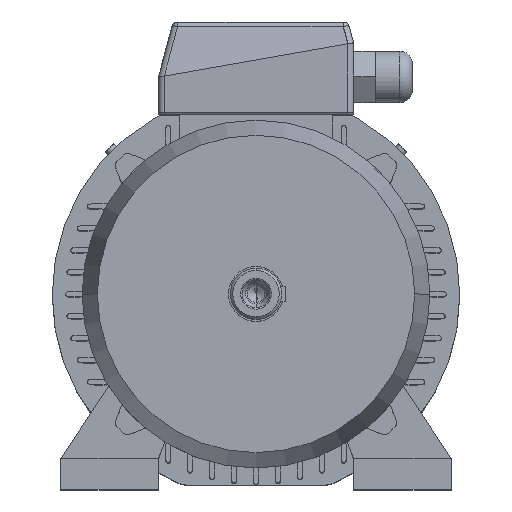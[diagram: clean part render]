
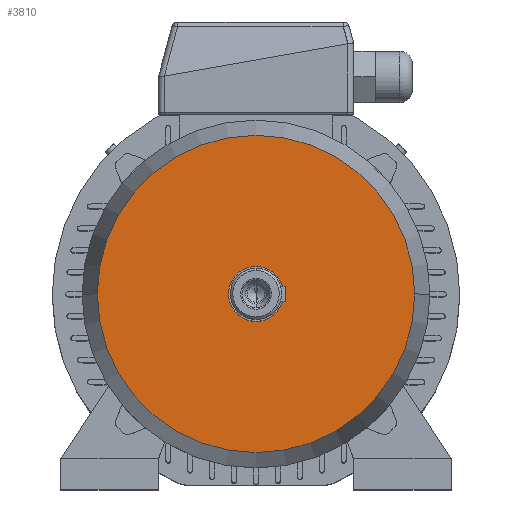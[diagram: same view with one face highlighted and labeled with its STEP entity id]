
A CAD part, top view. The second image highlights one B-rep face of the part: STEP entity #3810.
In plain terms, the highlighted planar face has unit normal (0, 0, 1).
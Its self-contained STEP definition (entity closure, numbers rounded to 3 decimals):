
#525 = ORIENTED_EDGE ( 'NONE', *, *, #4297, .F. ) ;
#847 = VERTEX_POINT ( 'NONE', #3585 ) ;
#906 = VERTEX_POINT ( 'NONE', #3713 ) ;
#959 = EDGE_CURVE ( 'NONE', #906, #847, #3814, .T. ) ;
#3585 = CARTESIAN_POINT ( 'NONE',  ( 130., 0., 59. ) ) ;
#3713 = CARTESIAN_POINT ( 'NONE',  ( -130., 0., 59. ) ) ;
#3810 = ADVANCED_FACE ( 'NONE', ( #6605 ), #6606, .T. ) ;
#3814 = CIRCLE ( 'NONE', #3815, 130. ) ;
#3815 = AXIS2_PLACEMENT_3D ( 'NONE', #3816, #3817, #3818 ) ;
#3816 = CARTESIAN_POINT ( 'NONE',  ( 0., 0., 59. ) ) ;
#3817 = DIRECTION ( 'NONE',  ( 0., 0., -1. ) ) ;
#3818 = DIRECTION ( 'NONE',  ( -1., 0., 0. ) ) ;
#4297 = EDGE_CURVE ( 'NONE', #847, #906, #6994, .T. ) ;
#6605 = FACE_OUTER_BOUND ( 'NONE', #12967, .T. ) ;
#6606 = PLANE ( 'NONE',  #6607 ) ;
#6607 = AXIS2_PLACEMENT_3D ( 'NONE', #6612, #6613, #6614 ) ;
#6612 = CARTESIAN_POINT ( 'NONE',  ( 0., 130., 59. ) ) ;
#6613 = DIRECTION ( 'NONE',  ( 0., 0., 1. ) ) ;
#6614 = DIRECTION ( 'NONE',  ( 1., 0., 0. ) ) ;
#6994 = CIRCLE ( 'NONE', #6995, 130. ) ;
#6995 = AXIS2_PLACEMENT_3D ( 'NONE', #6996, #6997, #6998 ) ;
#6996 = CARTESIAN_POINT ( 'NONE',  ( 0., 0., 59. ) ) ;
#6997 = DIRECTION ( 'NONE',  ( 0., 0., -1. ) ) ;
#6998 = DIRECTION ( 'NONE',  ( -1., 0., 0. ) ) ;
#7652 = ORIENTED_EDGE ( 'NONE', *, *, #959, .F. ) ;
#12967 = EDGE_LOOP ( 'NONE', ( #7652, #525 ) ) ;
